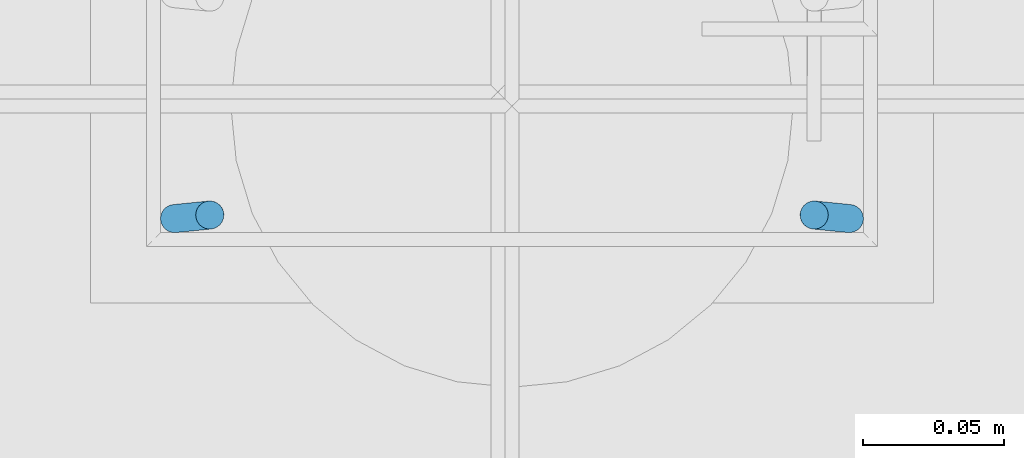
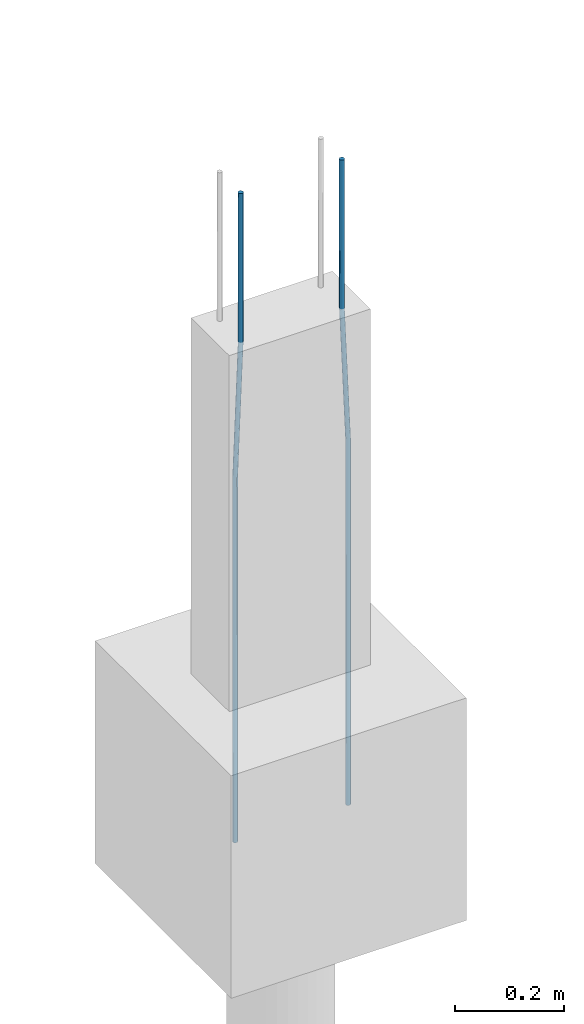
# One storey, part 63 of 119: 2 reinforcing bars.
"""IFC4 building model written with IfcOpenShell, lengths in centimetres."""

from ifc_helpers import new_model, entity, si_unit, derived_unit, frame, origin_with_axes, place, context, project, spatial, element, save


model = new_model("IFC4")

# Units and contexts
model_context = context("Model", 3, precision=1e-05, world=origin_with_axes(), identifier="Body")
ifc_project = project(units=[si_unit("LENGTHUNIT", "METRE", prefix="CENTI"), si_unit("VOLUMEUNIT", "CUBIC_METRE"), si_unit("AREAUNIT", "SQUARE_METRE"), si_unit("POWERUNIT", "WATT"), si_unit("LUMINOUSFLUXUNIT", "LUMEN"), si_unit("ELECTRICCURRENTUNIT", "AMPERE"), si_unit("PRESSUREUNIT", "PASCAL", prefix="KILO"), si_unit("MASSUNIT", "GRAM", prefix="KILO"), si_unit("PLANEANGLEUNIT", "RADIAN"), derived_unit("VOLUMETRICFLOWRATEUNIT", [(si_unit("LENGTHUNIT", "METRE"), 3), (si_unit("TIMEUNIT", "SECOND"), -1)])], contexts=[model_context])

# Site, building, storey
site_placement = place(None, frame((-4000.0, 0.0, 0.0), z_axis=(0.0, 0.0, 1.0), x_axis=(1.0, 0.0, 0.0)))
site = spatial("IfcSite", under=ifc_project, at=site_placement, Name="PADRÃO")
building_placement = place(site_placement, frame((0.0, 0.0, -14.0)))
building = spatial("IfcBuilding", under=site, at=building_placement, Name="CRECHE PRÉ-ESCOLA TIPO 2")
storey_placement = place(building_placement, origin_with_axes())
storey = spatial("IfcBuildingStorey", under=building, at=storey_placement, Name="FUNDAÇÃO", CompositionType="ELEMENT", Elevation=-14.0)

# Reinforcing bars
reinforcing_bar_1_placement = place(storey_placement, frame((3363.625, 3981.0725, 33.3573001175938), z_axis=(0.0, 0.0, 1.0), x_axis=(1.0, 0.0, 0.0)))
element("IfcReinforcingBar", 1, at=reinforcing_bar_1_placement, inside=storey, Name="P28 - Longitudinal", BarLength=0.0, CrossSectionArea=7.853981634e-05, NominalDiameter=1.0, PredefinedType="MAIN", context=model_context, shape_type="AdvancedSweptSolid", body=[
    entity("IfcSweptDiskSolid", entity("IfcCompositeCurve", [entity("IfcCompositeCurveSegment", "CONTINUOUS", True, entity("IfcPolyline", [entity("IfcCartesianPoint", [-0.625, -0.0625, -145.357300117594]), entity("IfcCartesianPoint", [-0.625, -0.0625, -63.3573001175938])])), entity("IfcCompositeCurveSegment", "CONTINUOUS", True, entity("IfcPolyline", [entity("IfcCartesianPoint", [-0.625, -0.0625, -63.3573001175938]), entity("IfcCartesianPoint", [0.625, 0.0625, -33.3573001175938])])), entity("IfcCompositeCurveSegment", "CONTINUOUS", True, entity("IfcPolyline", [entity("IfcCartesianPoint", [0.625, 0.0625, -33.3573001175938]), entity("IfcCartesianPoint", [0.625, 0.0625, 0.0])]))], False), 0.5),
])
reinforcing_bar_2_placement = place(storey_placement, frame((3386.375, 3981.0725, 33.3573001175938), z_axis=(0.0, 0.0, 1.0), x_axis=(1.0, 0.0, 0.0)))
element("IfcReinforcingBar", 2, at=reinforcing_bar_2_placement, inside=storey, Name="P28 - Longitudinal", BarLength=0.0, CrossSectionArea=7.853981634e-05, NominalDiameter=1.0, PredefinedType="MAIN", context=model_context, shape_type="AdvancedSweptSolid", body=[
    entity("IfcSweptDiskSolid", entity("IfcCompositeCurve", [entity("IfcCompositeCurveSegment", "CONTINUOUS", True, entity("IfcPolyline", [entity("IfcCartesianPoint", [0.625, -0.0625, -145.357300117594]), entity("IfcCartesianPoint", [0.625, -0.0625, -63.3573001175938])])), entity("IfcCompositeCurveSegment", "CONTINUOUS", True, entity("IfcPolyline", [entity("IfcCartesianPoint", [0.625, -0.0625, -63.3573001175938]), entity("IfcCartesianPoint", [-0.625, 0.0625, -33.3573001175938])])), entity("IfcCompositeCurveSegment", "CONTINUOUS", True, entity("IfcPolyline", [entity("IfcCartesianPoint", [-0.625, 0.0625, -33.3573001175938]), entity("IfcCartesianPoint", [-0.625, 0.0625, 0.0])]))], False), 0.5),
])

save(model, "model.ifc")
